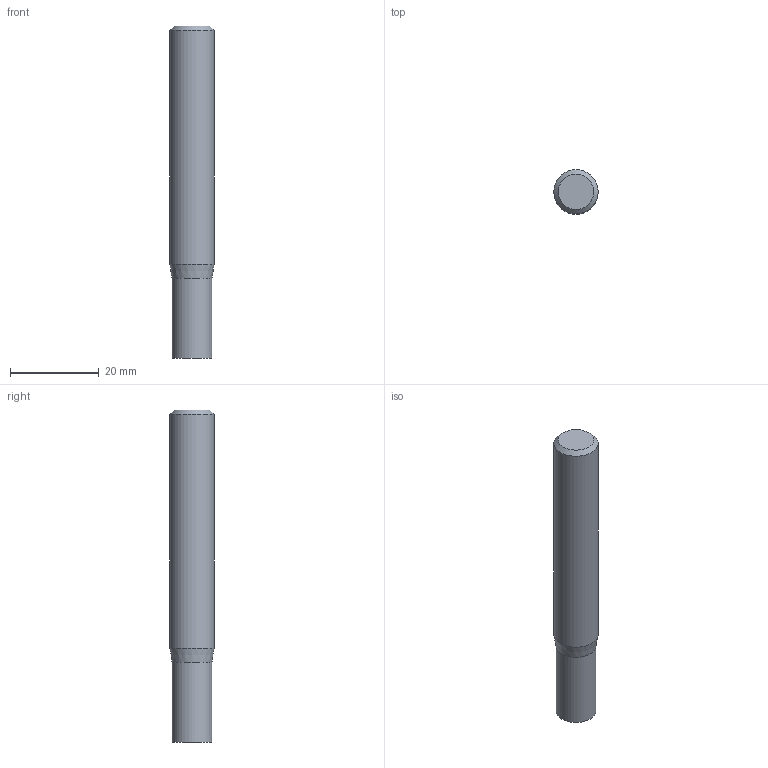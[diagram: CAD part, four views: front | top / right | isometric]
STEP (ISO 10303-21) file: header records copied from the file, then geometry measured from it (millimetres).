
FILE_DESCRIPTION((''),'2;1');
FILE_NAME('C:\Users\nsx150\AppData\Local\Temp\Mastercam 2021\W9Z147XDNF\TEMP.step','2021-04-08T14:30:12',(''),(''),'STEP Write','Mastercam 2021 ... CNC Software, Inc.','');
FILE_SCHEMA(('AUTOMOTIVE_DESIGN'));
Length unit declared in the file: millimetre
Products named in the file (1): None
Bounding box: 10 x 10 x 75 mm (x, y, z)
Volume: 5583.3 mm3; surface area: 2545.5 mm2
Topology: 2 solids, 2 shells, 8 faces, 10 edges, 6 vertices
Faces by surface type: plane 4, cylinder 2, cone 2
Full cylindrical faces by diameter (mm): 9 x1, 10 x1
Entity records: 190 total; most frequent: DIRECTION 32, CARTESIAN_POINT 22, AXIS2_PLACEMENT_3D 16, ORIENTED_EDGE 12, EDGE_LOOP 12, STYLED_ITEM 11, ADVANCED_FACE 8, VERTEX_POINT 6
